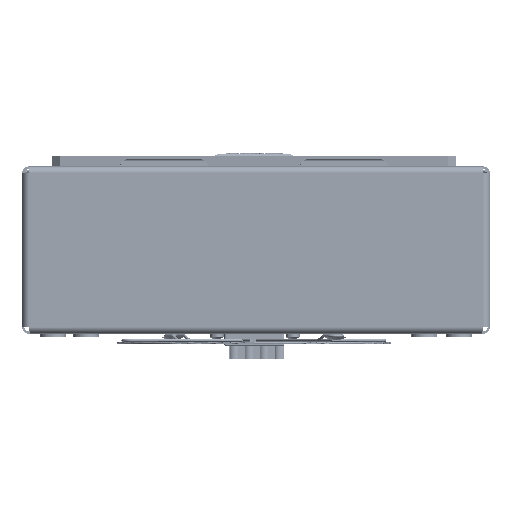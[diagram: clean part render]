
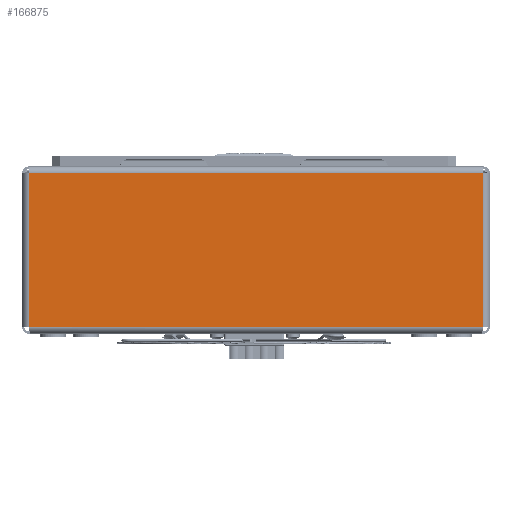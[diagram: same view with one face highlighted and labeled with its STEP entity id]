
A CAD part, front view. The second image highlights one B-rep face of the part: STEP entity #166875.
In plain terms, the highlighted planar face has unit normal (0, -1, 0).
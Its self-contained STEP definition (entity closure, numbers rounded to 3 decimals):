
#32929 = LINE ( 'NONE', #271678, #37017 ) ;
#35666 = ORIENTED_EDGE ( 'NONE', *, *, #241824, .T. ) ;
#37017 = VECTOR ( 'NONE', #96144, 1000. ) ;
#64951 = VECTOR ( 'NONE', #103921, 1000. ) ;
#71601 = EDGE_LOOP ( 'NONE', ( #318226, #221404, #35666, #265261 ) ) ;
#72742 = LINE ( 'NONE', #76838, #64951 ) ;
#76550 = CARTESIAN_POINT ( 'NONE',  ( 164.33, -28.67, 315.605 ) ) ;
#76838 = CARTESIAN_POINT ( 'NONE',  ( 50.83, -28.67, 238.891 ) ) ;
#88233 = PLANE ( 'NONE',  #284375 ) ;
#91424 = DIRECTION ( 'NONE',  ( 0., 1., 0. ) ) ;
#94091 = CARTESIAN_POINT ( 'NONE',  ( -62.67, -28.67, 315.605 ) ) ;
#96144 = DIRECTION ( 'NONE',  ( 0., 0., 1. ) ) ;
#96670 = VERTEX_POINT ( 'NONE', #94091 ) ;
#103921 = DIRECTION ( 'NONE',  ( 1., 0., 0. ) ) ;
#123608 = LINE ( 'NONE', #76550, #158313 ) ;
#127477 = DIRECTION ( 'NONE',  ( 1., 0., 0. ) ) ;
#140232 = CARTESIAN_POINT ( 'NONE',  ( -62.67, -28.67, 319.105 ) ) ;
#158313 = VECTOR ( 'NONE', #127477, 1000. ) ;
#165057 = CARTESIAN_POINT ( 'NONE',  ( 164.33, -28.67, 315.605 ) ) ;
#166875 = ADVANCED_FACE ( 'NONE', ( #259960 ), #88233, .F. ) ;
#182476 = VERTEX_POINT ( 'NONE', #165057 ) ;
#187941 = CARTESIAN_POINT ( 'NONE',  ( 50.83, -28.67, 319.105 ) ) ;
#195945 = VERTEX_POINT ( 'NONE', #312268 ) ;
#211756 = DIRECTION ( 'NONE',  ( 0., 0., -1. ) ) ;
#215736 = EDGE_CURVE ( 'NONE', #96670, #182476, #123608, .T. ) ;
#218318 = EDGE_CURVE ( 'NONE', #195945, #182476, #32929, .T. ) ;
#221404 = ORIENTED_EDGE ( 'NONE', *, *, #279950, .T. ) ;
#241824 = EDGE_CURVE ( 'NONE', #279113, #195945, #72742, .T. ) ;
#257520 = CARTESIAN_POINT ( 'NONE',  ( -62.67, -28.67, 238.891 ) ) ;
#259960 = FACE_OUTER_BOUND ( 'NONE', #71601, .T. ) ;
#265261 = ORIENTED_EDGE ( 'NONE', *, *, #218318, .T. ) ;
#271678 = CARTESIAN_POINT ( 'NONE',  ( 164.33, -28.67, 319.105 ) ) ;
#278590 = VECTOR ( 'NONE', #211756, 1000. ) ;
#279113 = VERTEX_POINT ( 'NONE', #257520 ) ;
#279950 = EDGE_CURVE ( 'NONE', #96670, #279113, #306094, .T. ) ;
#284375 = AXIS2_PLACEMENT_3D ( 'NONE', #187941, #91424, #314870 ) ;
#306094 = LINE ( 'NONE', #140232, #278590 ) ;
#312268 = CARTESIAN_POINT ( 'NONE',  ( 164.33, -28.67, 238.891 ) ) ;
#314870 = DIRECTION ( 'NONE',  ( 0., 0., 1. ) ) ;
#318226 = ORIENTED_EDGE ( 'NONE', *, *, #215736, .F. ) ;
